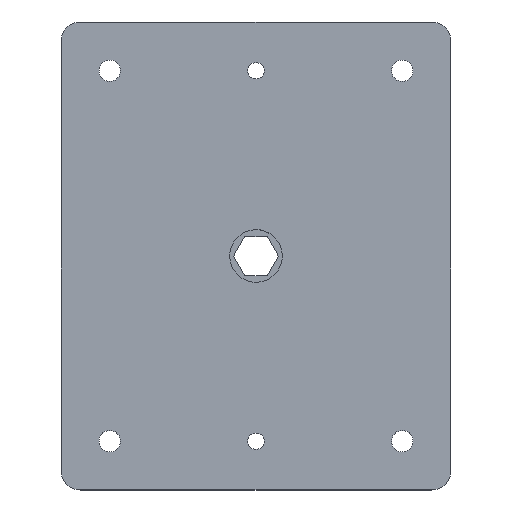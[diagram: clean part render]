
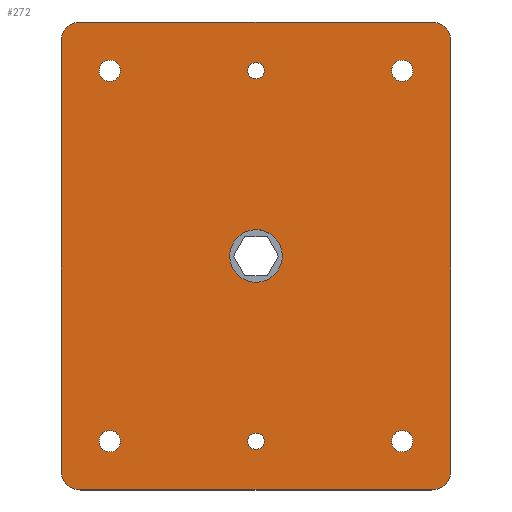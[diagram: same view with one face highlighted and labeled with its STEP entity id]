
A CAD part, top view. The second image highlights one B-rep face of the part: STEP entity #272.
In plain terms, the highlighted planar face has unit normal (0, 0, 1).
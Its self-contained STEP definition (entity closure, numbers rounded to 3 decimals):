
#55=AXIS2_PLACEMENT_3D('Circle Axis2P3D',#53,#54,$) ;
#79=AXIS2_PLACEMENT_3D('Circle Axis2P3D',#77,#78,$) ;
#92=AXIS2_PLACEMENT_3D('Plane Axis2P3D',#89,#90,#91) ;
#105=AXIS2_PLACEMENT_3D('Circle Axis2P3D',#103,#104,$) ;
#119=AXIS2_PLACEMENT_3D('Circle Axis2P3D',#117,#118,$) ;
#133=AXIS2_PLACEMENT_3D('Circle Axis2P3D',#131,#132,$) ;
#147=AXIS2_PLACEMENT_3D('Circle Axis2P3D',#145,#146,$) ;
#162=AXIS2_PLACEMENT_3D('Circle Axis2P3D',#160,#161,$) ;
#171=AXIS2_PLACEMENT_3D('Circle Axis2P3D',#169,#170,$) ;
#180=AXIS2_PLACEMENT_3D('Circle Axis2P3D',#178,#179,$) ;
#189=AXIS2_PLACEMENT_3D('Circle Axis2P3D',#187,#188,$) ;
#198=AXIS2_PLACEMENT_3D('Circle Axis2P3D',#196,#197,$) ;
#207=AXIS2_PLACEMENT_3D('Circle Axis2P3D',#205,#206,$) ;
#216=AXIS2_PLACEMENT_3D('Circle Axis2P3D',#214,#215,$) ;
#225=AXIS2_PLACEMENT_3D('Circle Axis2P3D',#223,#224,$) ;
#234=AXIS2_PLACEMENT_3D('Circle Axis2P3D',#232,#233,$) ;
#243=AXIS2_PLACEMENT_3D('Circle Axis2P3D',#241,#242,$) ;
#256=AXIS2_PLACEMENT_3D('Circle Axis2P3D',#254,#255,$) ;
#265=AXIS2_PLACEMENT_3D('Circle Axis2P3D',#263,#264,$) ;
#50=CARTESIAN_POINT('Vertex',(47.9,107.5,8.)) ;
#53=CARTESIAN_POINT('Axis2P3D Location',(50.,107.5,8.)) ;
#57=CARTESIAN_POINT('Vertex',(52.1,107.5,8.)) ;
#77=CARTESIAN_POINT('Axis2P3D Location',(50.,107.5,8.)) ;
#89=CARTESIAN_POINT('Axis2P3D Location',(0.,0.,8.)) ;
#94=CARTESIAN_POINT('Line Origine',(50.,0.,8.)) ;
#98=CARTESIAN_POINT('Vertex',(5.,0.,8.)) ;
#100=CARTESIAN_POINT('Vertex',(95.,0.,8.)) ;
#103=CARTESIAN_POINT('Axis2P3D Location',(95.,5.,8.)) ;
#107=CARTESIAN_POINT('Vertex',(100.,5.,8.)) ;
#110=CARTESIAN_POINT('Line Origine',(100.,60.,8.)) ;
#114=CARTESIAN_POINT('Vertex',(100.,115.,8.)) ;
#117=CARTESIAN_POINT('Axis2P3D Location',(95.,115.,8.)) ;
#121=CARTESIAN_POINT('Vertex',(95.,120.,8.)) ;
#124=CARTESIAN_POINT('Line Origine',(50.,120.,8.)) ;
#128=CARTESIAN_POINT('Vertex',(5.,120.,8.)) ;
#131=CARTESIAN_POINT('Axis2P3D Location',(5.,115.,8.)) ;
#135=CARTESIAN_POINT('Vertex',(0.,115.,8.)) ;
#138=CARTESIAN_POINT('Line Origine',(0.,60.,8.)) ;
#142=CARTESIAN_POINT('Vertex',(0.,5.,8.)) ;
#145=CARTESIAN_POINT('Axis2P3D Location',(5.,5.,8.)) ;
#160=CARTESIAN_POINT('Axis2P3D Location',(50.,60.,8.)) ;
#164=CARTESIAN_POINT('Vertex',(56.749,60.092,8.)) ;
#166=CARTESIAN_POINT('Vertex',(43.251,59.908,8.)) ;
#169=CARTESIAN_POINT('Axis2P3D Location',(50.,60.,8.)) ;
#178=CARTESIAN_POINT('Axis2P3D Location',(12.5,107.5,8.)) ;
#182=CARTESIAN_POINT('Vertex',(15.25,107.5,8.)) ;
#184=CARTESIAN_POINT('Vertex',(9.75,107.5,8.)) ;
#187=CARTESIAN_POINT('Axis2P3D Location',(12.5,107.5,8.)) ;
#196=CARTESIAN_POINT('Axis2P3D Location',(87.5,107.5,8.)) ;
#200=CARTESIAN_POINT('Vertex',(90.25,107.5,8.)) ;
#202=CARTESIAN_POINT('Vertex',(84.75,107.5,8.)) ;
#205=CARTESIAN_POINT('Axis2P3D Location',(87.5,107.5,8.)) ;
#214=CARTESIAN_POINT('Axis2P3D Location',(87.5,12.5,8.)) ;
#218=CARTESIAN_POINT('Vertex',(90.25,12.5,8.)) ;
#220=CARTESIAN_POINT('Vertex',(84.75,12.5,8.)) ;
#223=CARTESIAN_POINT('Axis2P3D Location',(87.5,12.5,8.)) ;
#232=CARTESIAN_POINT('Axis2P3D Location',(12.5,12.5,8.)) ;
#236=CARTESIAN_POINT('Vertex',(15.25,12.5,8.)) ;
#238=CARTESIAN_POINT('Vertex',(9.75,12.5,8.)) ;
#241=CARTESIAN_POINT('Axis2P3D Location',(12.5,12.5,8.)) ;
#254=CARTESIAN_POINT('Axis2P3D Location',(50.,12.5,8.)) ;
#258=CARTESIAN_POINT('Vertex',(52.1,12.5,8.)) ;
#260=CARTESIAN_POINT('Vertex',(47.9,12.5,8.)) ;
#263=CARTESIAN_POINT('Axis2P3D Location',(50.,12.5,8.)) ;
#54=DIRECTION('Axis2P3D Direction',(0.,0.,1.)) ;
#78=DIRECTION('Axis2P3D Direction',(0.,0.,1.)) ;
#90=DIRECTION('Axis2P3D Direction',(0.,0.,1.)) ;
#91=DIRECTION('Axis2P3D XDirection',(1.,0.,0.)) ;
#95=DIRECTION('Vector Direction',(1.,0.,0.)) ;
#104=DIRECTION('Axis2P3D Direction',(0.,0.,1.)) ;
#111=DIRECTION('Vector Direction',(0.,1.,0.)) ;
#118=DIRECTION('Axis2P3D Direction',(0.,0.,1.)) ;
#125=DIRECTION('Vector Direction',(-1.,0.,0.)) ;
#132=DIRECTION('Axis2P3D Direction',(0.,0.,1.)) ;
#139=DIRECTION('Vector Direction',(0.,-1.,0.)) ;
#146=DIRECTION('Axis2P3D Direction',(0.,0.,1.)) ;
#161=DIRECTION('Axis2P3D Direction',(0.,0.,1.)) ;
#170=DIRECTION('Axis2P3D Direction',(0.,0.,1.)) ;
#179=DIRECTION('Axis2P3D Direction',(0.,0.,1.)) ;
#188=DIRECTION('Axis2P3D Direction',(0.,0.,1.)) ;
#197=DIRECTION('Axis2P3D Direction',(0.,0.,1.)) ;
#206=DIRECTION('Axis2P3D Direction',(0.,0.,1.)) ;
#215=DIRECTION('Axis2P3D Direction',(0.,0.,1.)) ;
#224=DIRECTION('Axis2P3D Direction',(0.,0.,1.)) ;
#233=DIRECTION('Axis2P3D Direction',(0.,0.,1.)) ;
#242=DIRECTION('Axis2P3D Direction',(0.,0.,1.)) ;
#255=DIRECTION('Axis2P3D Direction',(0.,0.,1.)) ;
#264=DIRECTION('Axis2P3D Direction',(0.,0.,1.)) ;
#96=VECTOR('Line Direction',#95,1.) ;
#112=VECTOR('Line Direction',#111,1.) ;
#126=VECTOR('Line Direction',#125,1.) ;
#140=VECTOR('Line Direction',#139,1.) ;
#151=ORIENTED_EDGE('',*,*,#102,.T.) ;
#152=ORIENTED_EDGE('',*,*,#109,.F.) ;
#153=ORIENTED_EDGE('',*,*,#116,.T.) ;
#154=ORIENTED_EDGE('',*,*,#123,.F.) ;
#155=ORIENTED_EDGE('',*,*,#130,.T.) ;
#156=ORIENTED_EDGE('',*,*,#137,.F.) ;
#157=ORIENTED_EDGE('',*,*,#144,.T.) ;
#158=ORIENTED_EDGE('',*,*,#149,.F.) ;
#175=ORIENTED_EDGE('',*,*,#168,.F.) ;
#176=ORIENTED_EDGE('',*,*,#173,.F.) ;
#193=ORIENTED_EDGE('',*,*,#186,.F.) ;
#194=ORIENTED_EDGE('',*,*,#191,.F.) ;
#211=ORIENTED_EDGE('',*,*,#204,.F.) ;
#212=ORIENTED_EDGE('',*,*,#209,.F.) ;
#229=ORIENTED_EDGE('',*,*,#222,.F.) ;
#230=ORIENTED_EDGE('',*,*,#227,.F.) ;
#247=ORIENTED_EDGE('',*,*,#240,.F.) ;
#248=ORIENTED_EDGE('',*,*,#245,.F.) ;
#251=ORIENTED_EDGE('',*,*,#81,.F.) ;
#252=ORIENTED_EDGE('',*,*,#59,.F.) ;
#269=ORIENTED_EDGE('',*,*,#262,.F.) ;
#270=ORIENTED_EDGE('',*,*,#267,.F.) ;
#177=FACE_BOUND('',#174,.T.) ;
#195=FACE_BOUND('',#192,.T.) ;
#213=FACE_BOUND('',#210,.T.) ;
#231=FACE_BOUND('',#228,.T.) ;
#249=FACE_BOUND('',#246,.T.) ;
#253=FACE_BOUND('',#250,.T.) ;
#271=FACE_BOUND('',#268,.T.) ;
#272=ADVANCED_FACE('\X2\96F64EF651E04F554F53\X0\',(#159,#177,#195,#213,#231,#249,#253,#271),#93,.T.) ;
#56=CIRCLE('generated circle',#55,2.1) ;
#80=CIRCLE('generated circle',#79,2.1) ;
#106=CIRCLE('generated circle',#105,5.) ;
#120=CIRCLE('generated circle',#119,5.) ;
#134=CIRCLE('generated circle',#133,5.) ;
#148=CIRCLE('generated circle',#147,5.) ;
#163=CIRCLE('generated circle',#162,6.75) ;
#172=CIRCLE('generated circle',#171,6.75) ;
#181=CIRCLE('generated circle',#180,2.75) ;
#190=CIRCLE('generated circle',#189,2.75) ;
#199=CIRCLE('generated circle',#198,2.75) ;
#208=CIRCLE('generated circle',#207,2.75) ;
#217=CIRCLE('generated circle',#216,2.75) ;
#226=CIRCLE('generated circle',#225,2.75) ;
#235=CIRCLE('generated circle',#234,2.75) ;
#244=CIRCLE('generated circle',#243,2.75) ;
#257=CIRCLE('generated circle',#256,2.1) ;
#266=CIRCLE('generated circle',#265,2.1) ;
#59=EDGE_CURVE('',#51,#58,#56,.T.) ;
#81=EDGE_CURVE('',#58,#51,#80,.T.) ;
#102=EDGE_CURVE('',#99,#101,#97,.T.) ;
#109=EDGE_CURVE('',#108,#101,#106,.F.) ;
#116=EDGE_CURVE('',#108,#115,#113,.T.) ;
#123=EDGE_CURVE('',#122,#115,#120,.F.) ;
#130=EDGE_CURVE('',#122,#129,#127,.T.) ;
#137=EDGE_CURVE('',#136,#129,#134,.F.) ;
#144=EDGE_CURVE('',#136,#143,#141,.T.) ;
#149=EDGE_CURVE('',#99,#143,#148,.F.) ;
#168=EDGE_CURVE('',#165,#167,#163,.T.) ;
#173=EDGE_CURVE('',#167,#165,#172,.T.) ;
#186=EDGE_CURVE('',#183,#185,#181,.T.) ;
#191=EDGE_CURVE('',#185,#183,#190,.T.) ;
#204=EDGE_CURVE('',#201,#203,#199,.T.) ;
#209=EDGE_CURVE('',#203,#201,#208,.T.) ;
#222=EDGE_CURVE('',#219,#221,#217,.T.) ;
#227=EDGE_CURVE('',#221,#219,#226,.T.) ;
#240=EDGE_CURVE('',#237,#239,#235,.T.) ;
#245=EDGE_CURVE('',#239,#237,#244,.T.) ;
#262=EDGE_CURVE('',#259,#261,#257,.T.) ;
#267=EDGE_CURVE('',#261,#259,#266,.T.) ;
#150=EDGE_LOOP('',(#151,#152,#153,#154,#155,#156,#157,#158)) ;
#174=EDGE_LOOP('',(#175,#176)) ;
#192=EDGE_LOOP('',(#193,#194)) ;
#210=EDGE_LOOP('',(#211,#212)) ;
#228=EDGE_LOOP('',(#229,#230)) ;
#246=EDGE_LOOP('',(#247,#248)) ;
#250=EDGE_LOOP('',(#251,#252)) ;
#268=EDGE_LOOP('',(#269,#270)) ;
#159=FACE_OUTER_BOUND('',#150,.T.) ;
#97=LINE('Line',#94,#96) ;
#113=LINE('Line',#110,#112) ;
#127=LINE('Line',#124,#126) ;
#141=LINE('Line',#138,#140) ;
#93=PLANE('',#92) ;
#51=VERTEX_POINT('',#50) ;
#58=VERTEX_POINT('',#57) ;
#99=VERTEX_POINT('',#98) ;
#101=VERTEX_POINT('',#100) ;
#108=VERTEX_POINT('',#107) ;
#115=VERTEX_POINT('',#114) ;
#122=VERTEX_POINT('',#121) ;
#129=VERTEX_POINT('',#128) ;
#136=VERTEX_POINT('',#135) ;
#143=VERTEX_POINT('',#142) ;
#165=VERTEX_POINT('',#164) ;
#167=VERTEX_POINT('',#166) ;
#183=VERTEX_POINT('',#182) ;
#185=VERTEX_POINT('',#184) ;
#201=VERTEX_POINT('',#200) ;
#203=VERTEX_POINT('',#202) ;
#219=VERTEX_POINT('',#218) ;
#221=VERTEX_POINT('',#220) ;
#237=VERTEX_POINT('',#236) ;
#239=VERTEX_POINT('',#238) ;
#259=VERTEX_POINT('',#258) ;
#261=VERTEX_POINT('',#260) ;
